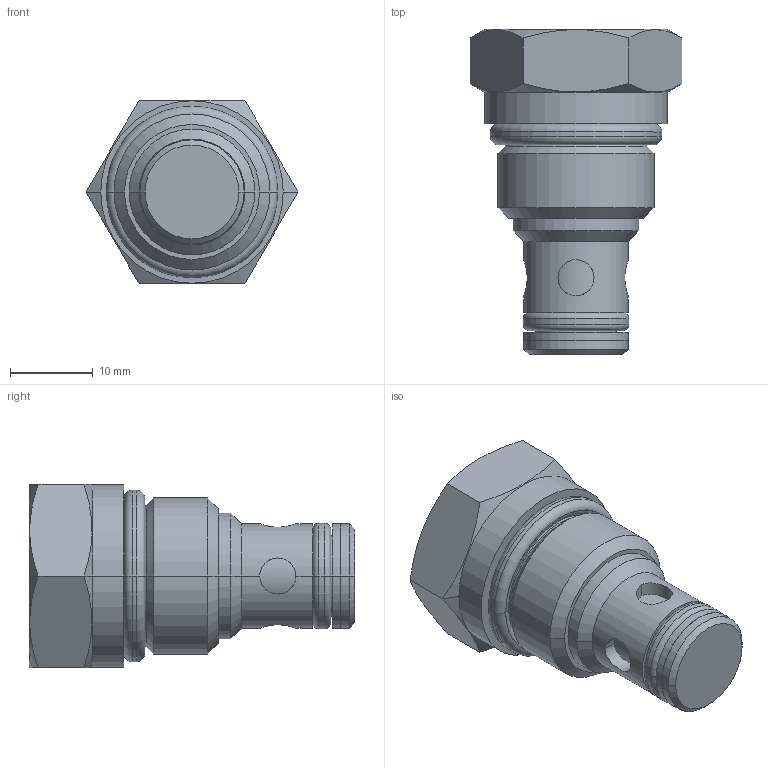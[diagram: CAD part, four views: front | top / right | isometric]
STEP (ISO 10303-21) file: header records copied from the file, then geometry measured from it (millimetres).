
FILE_DESCRIPTION((''),'2;1');
FILE_NAME('520-2-002654_SW0001','2024-11-22T14:29:09',('StollerS'),(''),'CREO PARAMETRIC BY PTC INC, 2022281','CREO PARAMETRIC BY PTC INC, 2022281','');
FILE_SCHEMA(('AP242_MANAGED_MODEL_BASED_3D_ENGINEERING_MIM_LF { 1 0 10303 442 1 1 4 }'));
Length unit declared in the file: millimetre
Products named in the file (1): 520-2-002654_SW0001
Bounding box: 25.66 x 39.37 x 22.23 mm (x, y, z)
Volume: 9993.2 mm3; surface area: 3685 mm2
Topology: 1 solids, 3 shells, 87 faces, 178 edges, 104 vertices
Faces by surface type: cylinder 36, torus 22, plane 17, cone 12
Entity records: 4259 total; most frequent: CARTESIAN_POINT 2349, DIRECTION 422, ORIENTED_EDGE 356, AXIS2_PLACEMENT_3D 185, EDGE_CURVE 178, VERTEX_POINT 104, EDGE_LOOP 98, CIRCLE 98
